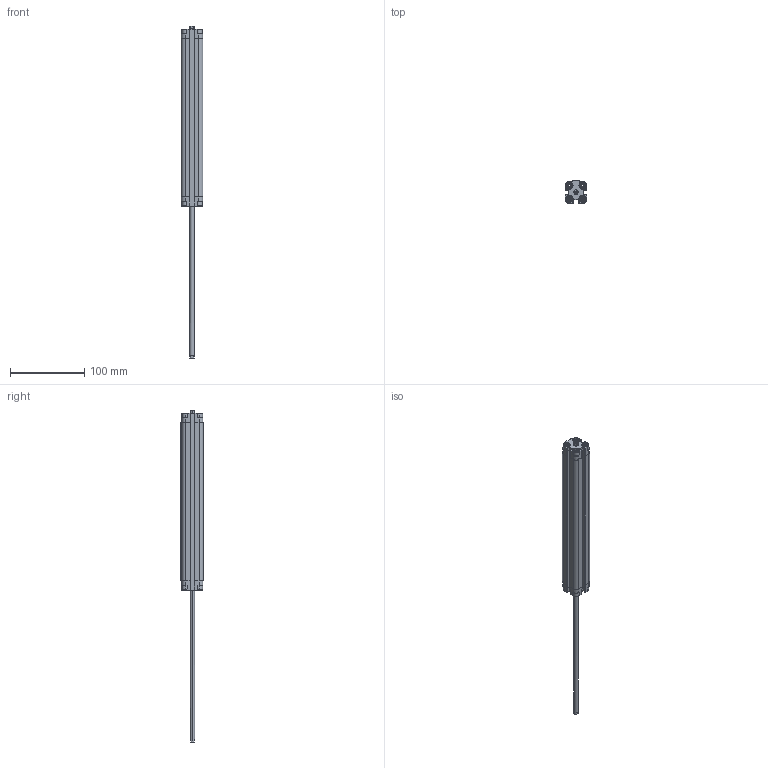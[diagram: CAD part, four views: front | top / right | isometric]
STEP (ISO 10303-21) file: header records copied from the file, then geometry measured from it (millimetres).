
FILE_DESCRIPTION (( 'STEP AP203' ), '1' );
FILE_NAME ('CDVU12-200F-P.STEP', '2020-07-24T18:03:25', ( '' ), ( '' ), 'SwSTEP 2.0', 'SolidWorks 2019', '' );
FILE_SCHEMA (( 'CONFIG_CONTROL_DESIGN' ));
Length unit declared in the file: millimetre
Products named in the file (1): CDVU12-200F-P
Bounding box: 29 x 30 x 447 mm (x, y, z)
Volume: 135779.9 mm3; surface area: 72186.5 mm2
Topology: 2 solids, 2 shells, 566 faces, 1508 edges, 980 vertices
Faces by surface type: plane 338, cylinder 164, cone 48, torus 16
Entity records: 17779 total; most frequent: CARTESIAN_POINT 3623, ORIENTED_EDGE 3000, DIRECTION 2850, EDGE_CURVE 1500, VERTEX_POINT 980, AXIS2_PLACEMENT_3D 975, LINE 900, VECTOR 900
